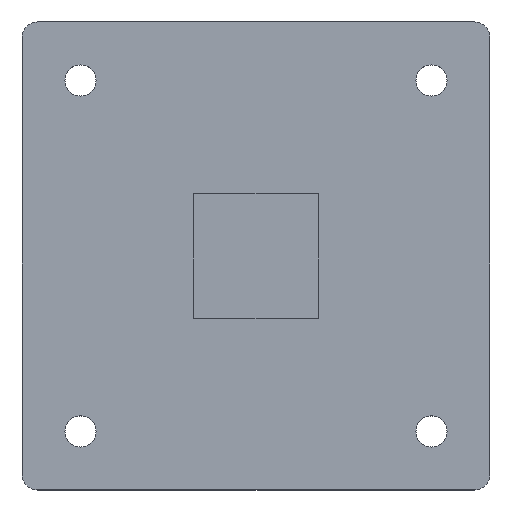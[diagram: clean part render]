
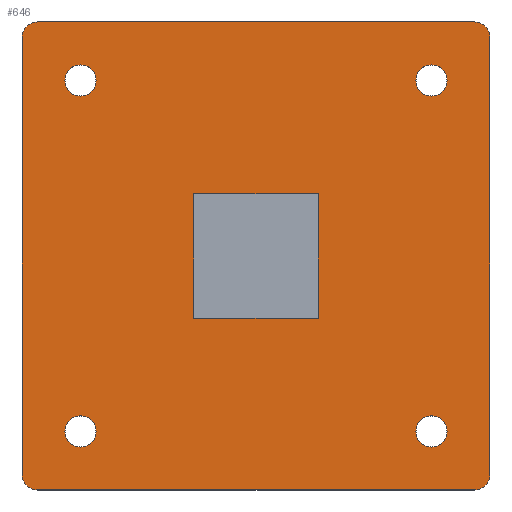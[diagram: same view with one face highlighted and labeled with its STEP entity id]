
A CAD part, top view. The second image highlights one B-rep face of the part: STEP entity #646.
In plain terms, the highlighted planar face has unit normal (0, 0, 1).
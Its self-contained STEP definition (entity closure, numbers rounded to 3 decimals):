
#258 = EDGE_CURVE( '', #290, #432, #724, .T. );
#262 = EDGE_CURVE( '', #394, #606, #728, .T. );
#276 = EDGE_CURVE( '', #314, #290, #744, .T. );
#290 = VERTEX_POINT( '', #760 );
#306 = EDGE_CURVE( '', #336, #314, #778, .T. );
#314 = VERTEX_POINT( '', #788 );
#328 = EDGE_CURVE( '', #572, #392, #806, .T. );
#334 = EDGE_CURVE( '', #354, #336, #813, .T. );
#336 = VERTEX_POINT( '', #815 );
#350 = EDGE_CURVE( '', #368, #354, #830, .T. );
#354 = VERTEX_POINT( '', #835 );
#368 = VERTEX_POINT( '', #850 );
#376 = EDGE_CURVE( '', #404, #368, #861, .T. );
#388 = EDGE_CURVE( '', #424, #404, #874, .T. );
#392 = VERTEX_POINT( '', #879 );
#394 = VERTEX_POINT( '', #881 );
#404 = VERTEX_POINT( '', #891 );
#418 = EDGE_CURVE( '', #432, #424, #905, .T. );
#424 = VERTEX_POINT( '', #912 );
#430 = VERTEX_POINT( '', #919 );
#432 = VERTEX_POINT( '', #921 );
#440 = EDGE_CURVE( '', #392, #572, #930, .T. );
#448 = EDGE_CURVE( '', #522, #478, #939, .T. );
#454 = EDGE_CURVE( '', #606, #394, #946, .T. );
#458 = EDGE_CURVE( '', #464, #430, #950, .T. );
#464 = VERTEX_POINT( '', #958 );
#472 = EDGE_CURVE( '', #504, #594, #967, .T. );
#478 = VERTEX_POINT( '', #973 );
#486 = EDGE_CURVE( '', #478, #522, #982, .T. );
#498 = EDGE_CURVE( '', #540, #504, #994, .T. );
#504 = VERTEX_POINT( '', #1002 );
#522 = VERTEX_POINT( '', #1021 );
#534 = EDGE_CURVE( '', #590, #540, #1033, .T. );
#540 = VERTEX_POINT( '', #1040 );
#572 = VERTEX_POINT( '', #1075 );
#588 = EDGE_CURVE( '', #594, #590, #1092, .T. );
#590 = VERTEX_POINT( '', #1094 );
#594 = VERTEX_POINT( '', #1098 );
#606 = VERTEX_POINT( '', #1110 );
#646 = ADVANCED_FACE( '', ( #1150, #1151, #1152, #1153, #1154, #1155 ), #1156, .T. );
#690 = EDGE_CURVE( '', #430, #464, #1208, .T. );
#724 = CIRCLE( '', #1240, 2. );
#728 = CIRCLE( '', #1244, 2. );
#744 = LINE( '', #1271, #1272 );
#760 = CARTESIAN_POINT( '', ( -28., -30., 0. ) );
#778 = CIRCLE( '', #1317, 2. );
#788 = CARTESIAN_POINT( '', ( 28., -30., 0. ) );
#806 = CIRCLE( '', #1350, 2. );
#813 = LINE( '', #1358, #1359 );
#815 = CARTESIAN_POINT( '', ( 30., -28., 0. ) );
#830 = CIRCLE( '', #1381, 2. );
#835 = CARTESIAN_POINT( '', ( 30., 28., 0. ) );
#850 = CARTESIAN_POINT( '', ( 28., 30., 0. ) );
#861 = LINE( '', #1421, #1422 );
#874 = CIRCLE( '', #1444, 2. );
#879 = CARTESIAN_POINT( '', ( 24.5, -22.5, 0. ) );
#881 = CARTESIAN_POINT( '', ( -24.5, -22.5, 0. ) );
#891 = CARTESIAN_POINT( '', ( -28., 30., 0. ) );
#905 = LINE( '', #1487, #1488 );
#912 = CARTESIAN_POINT( '', ( -30., 28., 0. ) );
#919 = CARTESIAN_POINT( '', ( -24.5, 22.5, 0. ) );
#921 = CARTESIAN_POINT( '', ( -30., -28., 0. ) );
#930 = CIRCLE( '', #1517, 2. );
#939 = CIRCLE( '', #1529, 2. );
#946 = CIRCLE( '', #1537, 2. );
#950 = CIRCLE( '', #1544, 2. );
#958 = CARTESIAN_POINT( '', ( -20.5, 22.5, 0. ) );
#967 = LINE( '', #1566, #1567 );
#973 = CARTESIAN_POINT( '', ( 20.5, 22.5, 0. ) );
#982 = CIRCLE( '', #1589, 2. );
#994 = LINE( '', #1608, #1609 );
#1002 = CARTESIAN_POINT( '', ( 8., 8., 0. ) );
#1021 = CARTESIAN_POINT( '', ( 24.5, 22.5, 0. ) );
#1033 = LINE( '', #1663, #1664 );
#1040 = CARTESIAN_POINT( '', ( -8., 8., 0. ) );
#1075 = CARTESIAN_POINT( '', ( 20.5, -22.5, 0. ) );
#1092 = LINE( '', #1745, #1746 );
#1094 = CARTESIAN_POINT( '', ( -8., -8., 0. ) );
#1098 = CARTESIAN_POINT( '', ( 8., -8., 0. ) );
#1110 = CARTESIAN_POINT( '', ( -20.5, -22.5, 0. ) );
#1150 = FACE_BOUND( '', #1833, .T. );
#1151 = FACE_OUTER_BOUND( '', #1834, .T. );
#1152 = FACE_BOUND( '', #1835, .T. );
#1153 = FACE_BOUND( '', #1836, .T. );
#1154 = FACE_BOUND( '', #1837, .T. );
#1155 = FACE_BOUND( '', #1838, .T. );
#1156 = PLANE( '', #1839 );
#1208 = CIRCLE( '', #1909, 2. );
#1240 = AXIS2_PLACEMENT_3D( '', #1938, #1939, #1940 );
#1244 = AXIS2_PLACEMENT_3D( '', #1942, #1943, #1944 );
#1271 = CARTESIAN_POINT( '', ( -28., -30., 0. ) );
#1272 = VECTOR( '', #1962, 1. );
#1317 = AXIS2_PLACEMENT_3D( '', #2005, #2006, #2007 );
#1350 = AXIS2_PLACEMENT_3D( '', #2054, #2055, #2056 );
#1358 = CARTESIAN_POINT( '', ( 30., -28., 0. ) );
#1359 = VECTOR( '', #2065, 1. );
#1381 = AXIS2_PLACEMENT_3D( '', #2076, #2077, #2078 );
#1421 = CARTESIAN_POINT( '', ( 28., 30., 0. ) );
#1422 = VECTOR( '', #2123, 1. );
#1444 = AXIS2_PLACEMENT_3D( '', #2136, #2137, #2138 );
#1487 = CARTESIAN_POINT( '', ( -30., 28., 0. ) );
#1488 = VECTOR( '', #2155, 1. );
#1517 = AXIS2_PLACEMENT_3D( '', #2184, #2185, #2186 );
#1529 = AXIS2_PLACEMENT_3D( '', #2196, #2197, #2198 );
#1537 = AXIS2_PLACEMENT_3D( '', #2207, #2208, #2209 );
#1544 = AXIS2_PLACEMENT_3D( '', #2211, #2212, #2213 );
#1566 = CARTESIAN_POINT( '', ( 8., 4., 0. ) );
#1567 = VECTOR( '', #2240, 1. );
#1589 = AXIS2_PLACEMENT_3D( '', #2252, #2253, #2254 );
#1608 = CARTESIAN_POINT( '', ( -4., 8., 0. ) );
#1609 = VECTOR( '', #2258, 1. );
#1663 = CARTESIAN_POINT( '', ( -8., -4., 0. ) );
#1664 = VECTOR( '', #2286, 1. );
#1745 = CARTESIAN_POINT( '', ( 4., -8., 0. ) );
#1746 = VECTOR( '', #2340, 1. );
#1833 = EDGE_LOOP( '', ( #2369, #2370, #2371, #2372 ) );
#1834 = EDGE_LOOP( '', ( #2373, #2374, #2375, #2376, #2377, #2378, #2379, #2380 ) );
#1835 = EDGE_LOOP( '', ( #2381, #2382 ) );
#1836 = EDGE_LOOP( '', ( #2383, #2384 ) );
#1837 = EDGE_LOOP( '', ( #2385, #2386 ) );
#1838 = EDGE_LOOP( '', ( #2387, #2388 ) );
#1839 = AXIS2_PLACEMENT_3D( '', #2389, #2390, #2391 );
#1909 = AXIS2_PLACEMENT_3D( '', #2443, #2444, #2445 );
#1938 = CARTESIAN_POINT( '', ( -28., -28., 0. ) );
#1939 = DIRECTION( '', ( 0., 0., -1. ) );
#1940 = DIRECTION( '', ( -1., 0., 0. ) );
#1942 = CARTESIAN_POINT( '', ( -22.5, -22.5, 0. ) );
#1943 = DIRECTION( '', ( 0., 0., 1. ) );
#1944 = DIRECTION( '', ( 1., 0., 0. ) );
#1962 = DIRECTION( '', ( -1., 0., 0. ) );
#2005 = CARTESIAN_POINT( '', ( 28., -28., 0. ) );
#2006 = DIRECTION( '', ( 0., 0., -1. ) );
#2007 = DIRECTION( '', ( 0., -1., 0. ) );
#2054 = CARTESIAN_POINT( '', ( 22.5, -22.5, 0. ) );
#2055 = DIRECTION( '', ( 0., 0., 1. ) );
#2056 = DIRECTION( '', ( 1., 0., 0. ) );
#2065 = DIRECTION( '', ( 0., -1., 0. ) );
#2076 = CARTESIAN_POINT( '', ( 28., 28., 0. ) );
#2077 = DIRECTION( '', ( 0., 0., -1. ) );
#2078 = DIRECTION( '', ( 1., 0., 0. ) );
#2123 = DIRECTION( '', ( 1., 0., 0. ) );
#2136 = CARTESIAN_POINT( '', ( -28., 28., 0. ) );
#2137 = DIRECTION( '', ( 0., 0., -1. ) );
#2138 = DIRECTION( '', ( 0., 1., 0. ) );
#2155 = DIRECTION( '', ( 0., 1., 0. ) );
#2184 = CARTESIAN_POINT( '', ( 22.5, -22.5, 0. ) );
#2185 = DIRECTION( '', ( 0., 0., 1. ) );
#2186 = DIRECTION( '', ( 1., 0., 0. ) );
#2196 = CARTESIAN_POINT( '', ( 22.5, 22.5, 0. ) );
#2197 = DIRECTION( '', ( 0., 0., 1. ) );
#2198 = DIRECTION( '', ( 1., 0., 0. ) );
#2207 = CARTESIAN_POINT( '', ( -22.5, -22.5, 0. ) );
#2208 = DIRECTION( '', ( 0., 0., 1. ) );
#2209 = DIRECTION( '', ( 1., 0., 0. ) );
#2211 = CARTESIAN_POINT( '', ( -22.5, 22.5, 0. ) );
#2212 = DIRECTION( '', ( 0., 0., 1. ) );
#2213 = DIRECTION( '', ( 1., 0., 0. ) );
#2240 = DIRECTION( '', ( 0., -1., 0. ) );
#2252 = CARTESIAN_POINT( '', ( 22.5, 22.5, 0. ) );
#2253 = DIRECTION( '', ( 0., 0., 1. ) );
#2254 = DIRECTION( '', ( 1., 0., 0. ) );
#2258 = DIRECTION( '', ( 1., 0., 0. ) );
#2286 = DIRECTION( '', ( 0., 1., 0. ) );
#2340 = DIRECTION( '', ( -1., 0., 0. ) );
#2369 = ORIENTED_EDGE( '', *, *, #498, .T. );
#2370 = ORIENTED_EDGE( '', *, *, #472, .T. );
#2371 = ORIENTED_EDGE( '', *, *, #588, .T. );
#2372 = ORIENTED_EDGE( '', *, *, #534, .T. );
#2373 = ORIENTED_EDGE( '', *, *, #418, .F. );
#2374 = ORIENTED_EDGE( '', *, *, #258, .F. );
#2375 = ORIENTED_EDGE( '', *, *, #276, .F. );
#2376 = ORIENTED_EDGE( '', *, *, #306, .F. );
#2377 = ORIENTED_EDGE( '', *, *, #334, .F. );
#2378 = ORIENTED_EDGE( '', *, *, #350, .F. );
#2379 = ORIENTED_EDGE( '', *, *, #376, .F. );
#2380 = ORIENTED_EDGE( '', *, *, #388, .F. );
#2381 = ORIENTED_EDGE( '', *, *, #440, .F. );
#2382 = ORIENTED_EDGE( '', *, *, #328, .F. );
#2383 = ORIENTED_EDGE( '', *, *, #448, .F. );
#2384 = ORIENTED_EDGE( '', *, *, #486, .F. );
#2385 = ORIENTED_EDGE( '', *, *, #454, .F. );
#2386 = ORIENTED_EDGE( '', *, *, #262, .F. );
#2387 = ORIENTED_EDGE( '', *, *, #458, .F. );
#2388 = ORIENTED_EDGE( '', *, *, #690, .F. );
#2389 = CARTESIAN_POINT( '', ( 0., 0., 0. ) );
#2390 = DIRECTION( '', ( 0., 0., 1. ) );
#2391 = DIRECTION( '', ( 1., 0., 0. ) );
#2443 = CARTESIAN_POINT( '', ( -22.5, 22.5, 0. ) );
#2444 = DIRECTION( '', ( 0., 0., 1. ) );
#2445 = DIRECTION( '', ( 1., 0., 0. ) );
